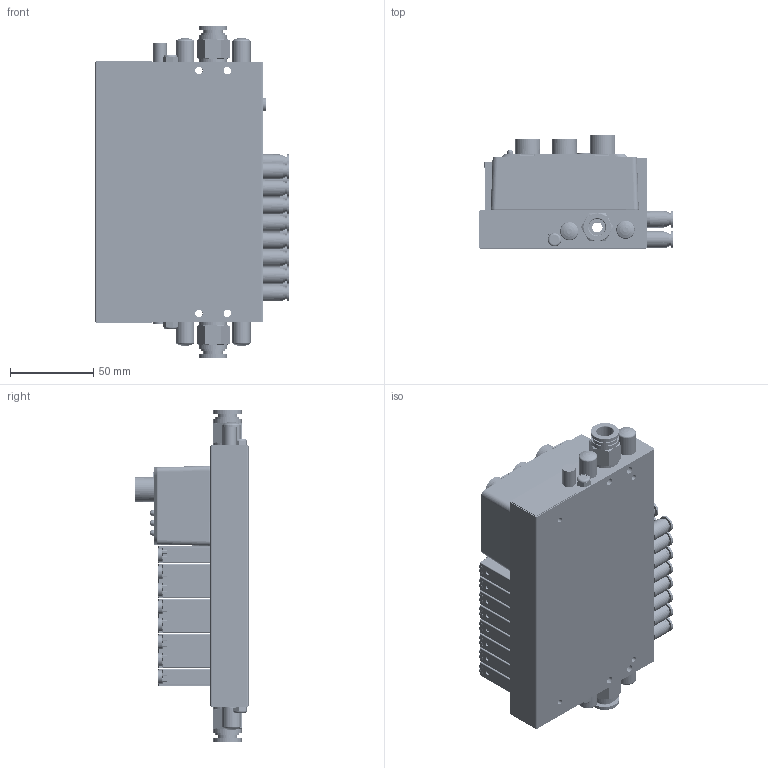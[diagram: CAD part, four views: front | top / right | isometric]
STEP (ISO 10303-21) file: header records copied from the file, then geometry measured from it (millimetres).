
FILE_DESCRIPTION(/* description */ (''),/* implementation_level */ '2;1');
FILE_NAME(/* name */ 'EV-XX-F1-8-X-XX-XX-A-X-C.stp',/* time_stamp */ '2025-10-13T14:10:48+08:00',/* author */ (''),/* organization */ (''),/* preprocessor_version */ 'ST-DEVELOPER v19.4',/* originating_system */ 'SIEMENS PLM Software NX2212.7001',/* authorisation */ '');
FILE_SCHEMA (('AUTOMOTIVE_DESIGN { 1 0 10303 214 3 1 1 1 }'));
Products named in the file (1): EV-PN-F1-H16-L-12-04-A-E-C_stp_objects
Bounding box: 116.5 x 68 x 199.6 mm (x, y, z)
Volume: 635932.9 mm3; surface area: 208334.2 mm2
Topology: 16 solids, 34 shells, 3944 faces, 9524 edges, 5872 vertices
Faces by surface type: plane 1599, cylinder 1421, torus 440, cone 198, sphere 148, bspline 138
Full cylindrical faces by diameter (mm): 1 x5, 1.05 x5, 1.5 x8, 1.55 x16, 1.7 x8, 2.05 x4, 2.15 x2, 2.3 x4, 2.48 x4, 2.5 x3, 2.8 x4, 3.3 x4, 3.446 x6, 3.5 x15, 3.7 x1, 4 x28, 4.134 x5, 4.3 x4, 4.5 x52, 5.1 x16, 5.3 x16, 5.4 x2, 5.5 x2, 5.917 x1, 6 x4, 7 x16, 8 x9, 8.3 x16, 8.566 x6, 9 x1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
Entity records: 134661 total; most frequent: CARTESIAN_POINT 28982, DIRECTION 19292, ORIENTED_EDGE 17276, EDGE_CURVE 8638, AXIS2_PLACEMENT_3D 7534, VERTEX_POINT 5624, EDGE_LOOP 4984, LINE 4224
